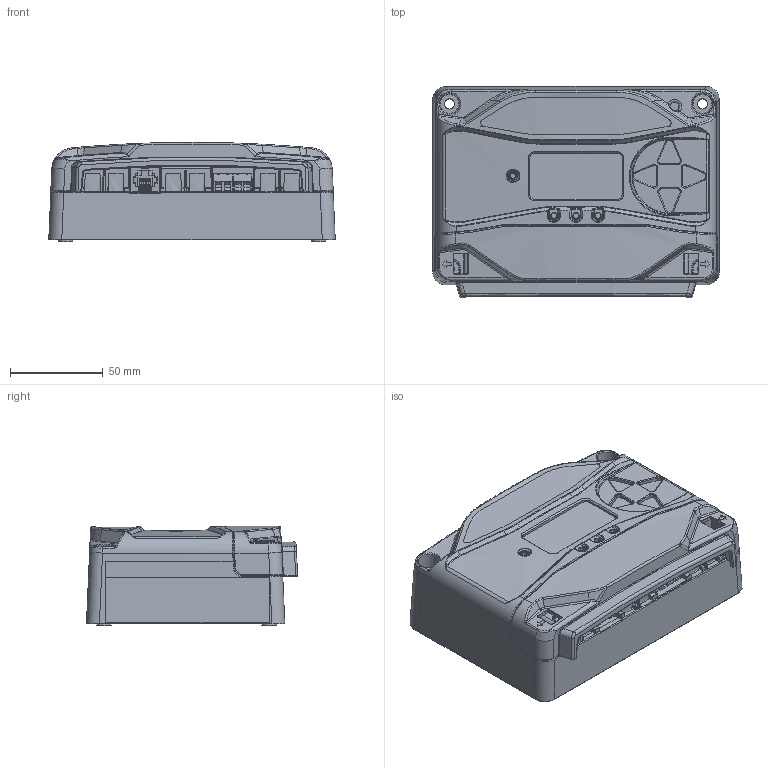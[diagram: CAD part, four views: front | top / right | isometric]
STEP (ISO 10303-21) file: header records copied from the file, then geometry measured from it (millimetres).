
FILE_DESCRIPTION(/* description */ ('Unknown'),/* implementation_level */ '2;1');
FILE_NAME(/* name */ 'PSPWM_PUBLIC_BODY',/* time_stamp */ '2017-02-27T18:18:37-05:00',/* author */ ('Unknown'),/* organization */ ('Unknown'),/* preprocessor_version */ 'ST-DEVELOPER v16.7',/* originating_system */ 'DEX',/* authorisation */ $);
FILE_SCHEMA (('AUTOMOTIVE_DESIGN {1 0 10303 214 3 1 1}'));
Products named in the file (6): PSPWM_PUBLIC_BODY; PUBLIC Solid Body_24; PUBLIC Solid Body_23; PUBLIC Solid Body_22; PUBLIC Solid Body_21; PUBLIC Solid Body_20
Assembly tree (5 placements, depth 2):
  PSPWM_PUBLIC_BODY
    PUBLIC Solid Body_24
    PUBLIC Solid Body_23
    PUBLIC Solid Body_22
    PUBLIC Solid Body_21
    PUBLIC Solid Body_20
Bounding box: 154.4 x 113.78 x 53.55 mm (x, y, z)
Volume: 726320.7 mm3; surface area: 82378.8 mm2
Topology: 5 solids, 5 shells, 1328 faces, 3387 edges, 2070 vertices
Faces by surface type: plane 557, bspline 375, cylinder 284, cone 46, torus 42, sphere 24
Full cylindrical faces by diameter (mm): 0.762 x4, 3.81 x4, 5.472 x4, 8.017 x4
Entity records: 55442 total; most frequent: CARTESIAN_POINT 25943, ORIENTED_EDGE 6534, DIRECTION 5337, EDGE_CURVE 3267, VERTEX_POINT 2043, AXIS2_PLACEMENT_3D 1879, LINE 1579, VECTOR 1579
